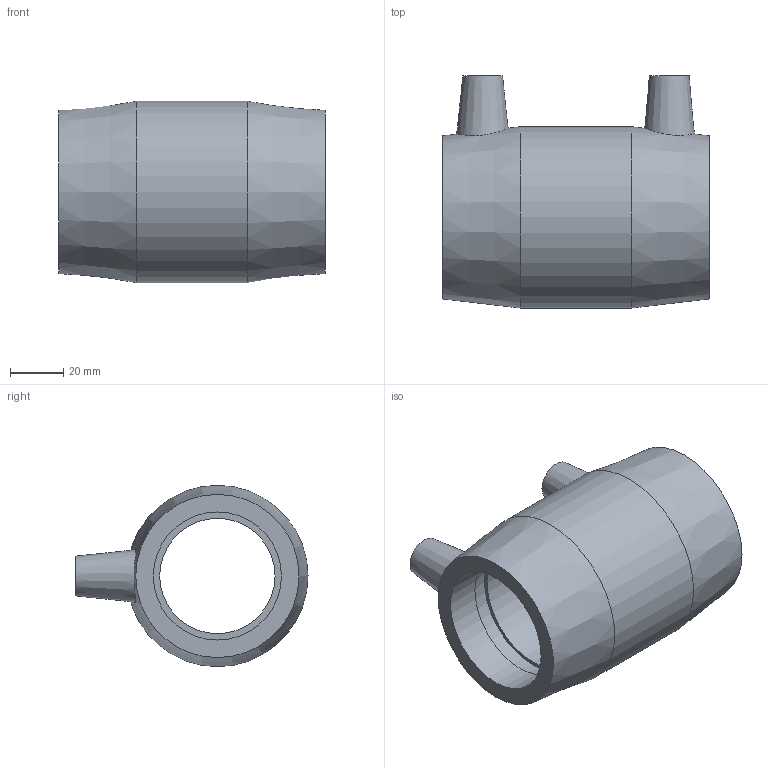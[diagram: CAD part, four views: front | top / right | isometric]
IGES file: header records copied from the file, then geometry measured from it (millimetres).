
Global section: file name: 4911N4050040.ipt; native system: Autodesk Inventor 2019; preprocessor: unknown; author: KIM; date: 20210830.100810; units: inch
Bounding box: 100.08 x 87.12 x 68.07 mm (x, y, z)
Volume: 161901.1 mm3; surface area: 42892.4 mm2
Topology: 1 solids, 1 shells, 29 faces, 68 edges, 49 vertices
Faces by surface type: plane 12, revolution 10, cone 4, cylinder 3
Full cylindrical faces by diameter (mm): 4 x2, 68.072 x1
